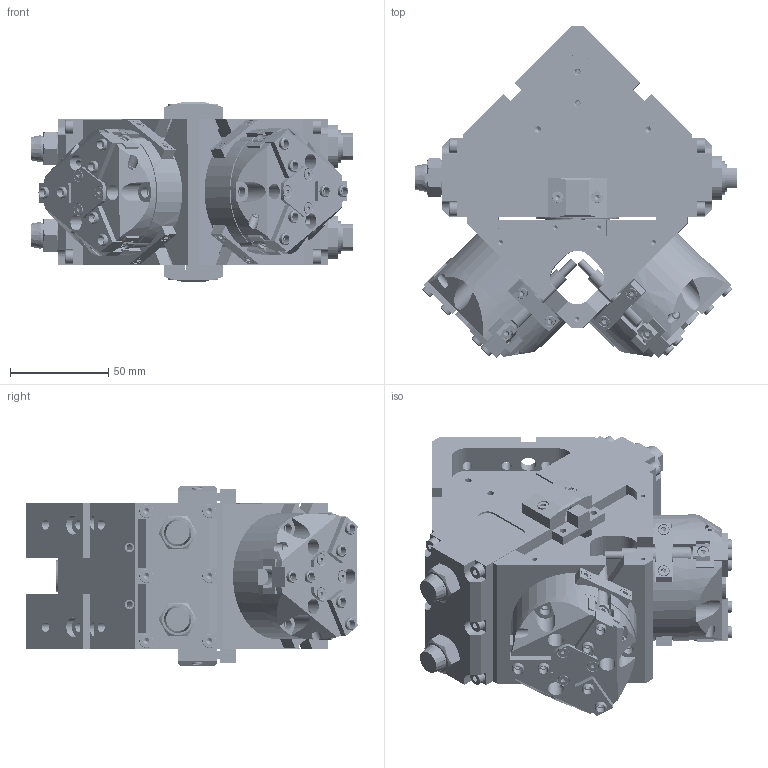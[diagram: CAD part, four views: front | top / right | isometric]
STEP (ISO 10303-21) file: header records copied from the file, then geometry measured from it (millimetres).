
FILE_DESCRIPTION (( 'STEP AP214' ), '1' );
FILE_NAME ('PSG25E-64.STEP', '2016-01-05T04:31:53', ( 'Registered User' ), ( 'Microsoft Corporation' ), 'SwSTEP 2.0', 'SolidWorks 2015', '' );
FILE_SCHEMA (( 'AUTOMOTIVE_DESIGN' ));
Length unit declared in the file: millimetre
Products named in the file (2): PSG25E-64
Bounding box: 163.66 x 168.45 x 91 mm (x, y, z)
Volume: 890785.9 mm3; surface area: 329720 mm2
Topology: 104 solids, 106 shells, 4239 faces, 10972 edges, 6719 vertices
Faces by surface type: plane 1609, cylinder 1506, cone 623, torus 407, sphere 94
Entity records: 179330 total; most frequent: CARTESIAN_POINT 29871, DIRECTION 21850, ORIENTED_EDGE 20854, EDGE_CURVE 10427, AXIS2_PLACEMENT_3D 8455, VERTEX_POINT 6578, LINE 4940, VECTOR 4940
